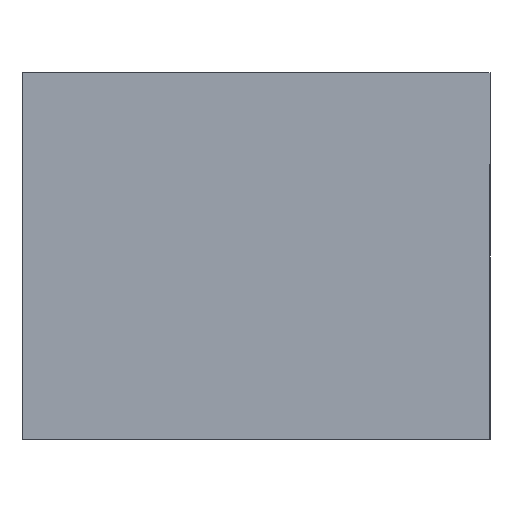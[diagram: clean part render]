
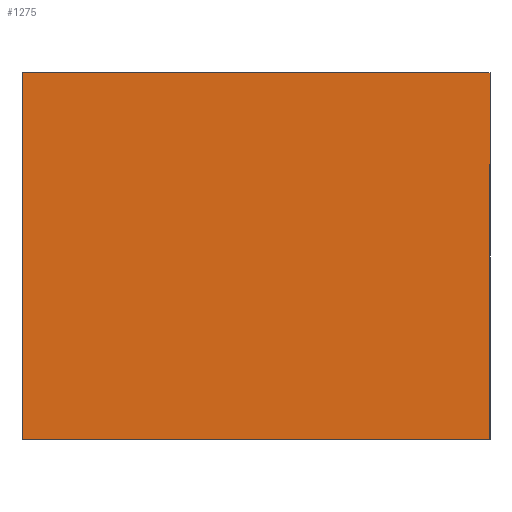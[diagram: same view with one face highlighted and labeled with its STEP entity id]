
A CAD part, front view. The second image highlights one B-rep face of the part: STEP entity #1275.
In plain terms, the highlighted planar face has unit normal (0, -1, 0).
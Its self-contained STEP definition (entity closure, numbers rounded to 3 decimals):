
#115 = DIRECTION ( 'NONE',  ( 0., 0., 1. ) ) ;
#129 = LINE ( 'NONE', #679, #1804 ) ;
#130 = PLANE ( 'NONE',  #1202 ) ;
#198 = CARTESIAN_POINT ( 'NONE',  ( 115., 0., -90. ) ) ;
#220 = VERTEX_POINT ( 'NONE', #370 ) ;
#233 = DIRECTION ( 'NONE',  ( -1., 0., 0. ) ) ;
#248 = VERTEX_POINT ( 'NONE', #198 ) ;
#274 = VECTOR ( 'NONE', #233, 1000. ) ;
#370 = CARTESIAN_POINT ( 'NONE',  ( -115., 0., 90. ) ) ;
#383 = VERTEX_POINT ( 'NONE', #1521 ) ;
#445 = DIRECTION ( 'NONE',  ( 1., 0., 0. ) ) ;
#493 = DIRECTION ( 'NONE',  ( 0., 0., -1. ) ) ;
#600 = FACE_OUTER_BOUND ( 'NONE', #817, .T. ) ;
#679 = CARTESIAN_POINT ( 'NONE',  ( -115., 0., 90. ) ) ;
#737 = ORIENTED_EDGE ( 'NONE', *, *, #1285, .F. ) ;
#817 = EDGE_LOOP ( 'NONE', ( #737, #1826, #2193, #1451 ) ) ;
#827 = CARTESIAN_POINT ( 'NONE',  ( 115., 0., -90. ) ) ;
#886 = CARTESIAN_POINT ( 'NONE',  ( 115., 0., 90. ) ) ;
#893 = EDGE_CURVE ( 'NONE', #383, #220, #2104, .T. ) ;
#895 = DIRECTION ( 'NONE',  ( 0., 0., 1. ) ) ;
#1091 = VECTOR ( 'NONE', #493, 1000. ) ;
#1101 = EDGE_CURVE ( 'NONE', #248, #383, #2017, .T. ) ;
#1202 = AXIS2_PLACEMENT_3D ( 'NONE', #1282, #2103, #115 ) ;
#1270 = VECTOR ( 'NONE', #895, 1000. ) ;
#1275 = ADVANCED_FACE ( 'NONE', ( #600 ), #130, .F. ) ;
#1282 = CARTESIAN_POINT ( 'NONE',  ( 0., 0., 0. ) ) ;
#1285 = EDGE_CURVE ( 'NONE', #2108, #248, #1444, .T. ) ;
#1298 = EDGE_CURVE ( 'NONE', #220, #2108, #129, .T. ) ;
#1444 = LINE ( 'NONE', #827, #1091 ) ;
#1451 = ORIENTED_EDGE ( 'NONE', *, *, #1101, .F. ) ;
#1521 = CARTESIAN_POINT ( 'NONE',  ( -115., 0., -90. ) ) ;
#1804 = VECTOR ( 'NONE', #445, 1000. ) ;
#1826 = ORIENTED_EDGE ( 'NONE', *, *, #1298, .F. ) ;
#1898 = CARTESIAN_POINT ( 'NONE',  ( -115., 0., -90. ) ) ;
#1969 = CARTESIAN_POINT ( 'NONE',  ( -115., 0., -90. ) ) ;
#2017 = LINE ( 'NONE', #1898, #274 ) ;
#2103 = DIRECTION ( 'NONE',  ( 0., 1., 0. ) ) ;
#2104 = LINE ( 'NONE', #1969, #1270 ) ;
#2108 = VERTEX_POINT ( 'NONE', #886 ) ;
#2193 = ORIENTED_EDGE ( 'NONE', *, *, #893, .F. ) ;
